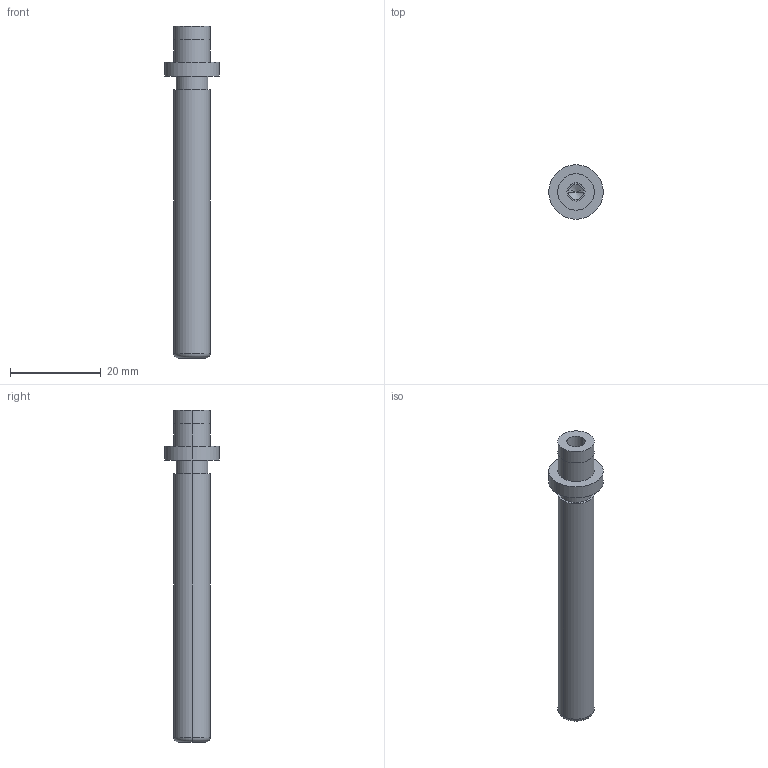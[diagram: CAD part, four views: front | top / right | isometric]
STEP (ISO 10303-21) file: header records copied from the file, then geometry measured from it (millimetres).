
FILE_DESCRIPTION(/* description */ (''),/* implementation_level */ '2;1');
FILE_NAME(/* name */ '3d_sgpw8-65_05251_r00.stp',/* time_stamp */ '2011-01-10T14:11:02+09:00',/* author */ ('MISUMI'),/* organization */ (''),/* preprocessor_version */ 'ST-DEVELOPER v11',/* originating_system */ 'UGS - NX 5.0',/* authorisation */ '');
FILE_SCHEMA (('CONFIG_CONTROL_DESIGN'));
Length unit declared in the file: millimetre
Products named in the file (1): 3d_sgpw8-65_05251_r00
Bounding box: 12 x 12 x 73 mm (x, y, z)
Volume: 3526.5 mm3; surface area: 2396.9 mm2
Topology: 1 solids, 1 shells, 31 faces, 64 edges, 38 vertices
Faces by surface type: cylinder 18, plane 7, cone 4, torus 2
Entity records: 890 total; most frequent: DIRECTION 162, CARTESIAN_POINT 130, ORIENTED_EDGE 120, AXIS2_PLACEMENT_3D 70, EDGE_CURVE 60, EDGE_LOOP 38, CIRCLE 38, VERTEX_POINT 38
